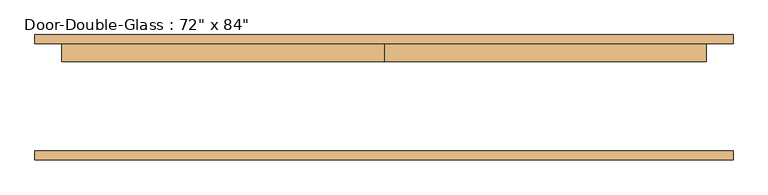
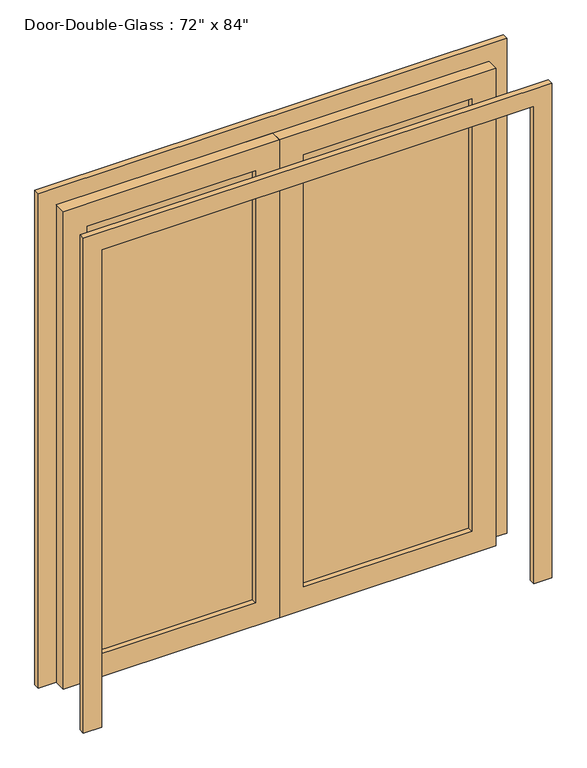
"""IFC4 building model written with IfcOpenShell, lengths in millimetres: door geometry."""

from ifc_helpers import new_model, si_unit, frame, origin, place, context, project, spatial, polyline, outline, extrude, source, transform, mapped, element, save


def door_6c86b5ab(model_context):
    return source(origin(), model_context, "Body", "SweptSolid", [
        extrude(outline(polyline([(2133.6, -914.4), (0.0, -914.4), (0.0, 0.0), (2133.6, 0.0), (2133.6, -914.4)]), holes=[polyline([(2032.0, -812.8), (2032.0, -101.6), (101.6, -101.6), (101.6, -812.8), (2032.0, -812.8)])]), frame((0.0, 103.98125, 0.0), z_axis=(0.0, 1.0, 0.0), x_axis=(0.0, 0.0, 1.0)), (0.0, 0.0, 1.0), 50.8),
        extrude(outline(polyline([(2133.6, 914.4), (2133.6, 0.0), (0.0, 0.0), (0.0, 914.4), (2133.6, 914.4)]), holes=[polyline([(2032.0, 812.8), (101.6, 812.8), (101.6, 101.6), (2032.0, 101.6), (2032.0, 812.8)])]), frame((0.0, 103.98125, 0.0), z_axis=(0.0, 1.0, 0.0), x_axis=(0.0, 0.0, 1.0)), (0.0, 0.0, 1.0), 50.8),
        extrude(outline(polyline([(101.6, 132.55625), (812.8, 132.55625), (812.8, 126.20625), (101.6, 126.20625), (101.6, 132.55625)])), frame((0.0, 0.0, 101.6), z_axis=(0.0, 0.0, 1.0), x_axis=(1.0, 0.0, 0.0)), (0.0, 0.0, 1.0), 1930.4),
        extrude(outline(polyline([(-812.8, 132.55625), (-101.6, 132.55625), (-101.6, 126.20625), (-812.8, 126.20625), (-812.8, 132.55625)])), frame((0.0, 0.0, 101.6), z_axis=(0.0, 0.0, 1.0), x_axis=(1.0, 0.0, 0.0)), (0.0, 0.0, 1.0), 1930.4),
        extrude(outline(polyline([(0.0, 990.6), (2209.8, 990.6), (2209.8, -990.6), (0.0, -990.6), (0.0, -914.4), (2133.6, -914.4), (2133.6, 914.4), (0.0, 914.4), (0.0, 990.6)])), frame((0.0, 154.78125, 0.0), z_axis=(0.0, 1.0, 0.0), x_axis=(0.0, 0.0, 1.0)), (0.0, 0.0, 1.0), 25.4),
        extrude(outline(polyline([(0.0, 990.6), (2209.8, 990.6), (2209.8, -990.6), (0.0, -990.6), (0.0, -914.4), (2133.6, -914.4), (2133.6, 914.4), (0.0, 914.4), (0.0, 990.6)])), frame((0.0, -175.41875, 0.0), z_axis=(0.0, 1.0, 0.0), x_axis=(0.0, 0.0, 1.0)), (0.0, 0.0, 1.0), 25.4),
    ])


if __name__ == "__main__":
    model = new_model("IFC4")
    model_context = context("Model", 3, world=origin())
    ifc_project = project(units=[si_unit("LENGTHUNIT", "METRE", prefix="MILLI")], contexts=[model_context])
    site = spatial("IfcSite", under=ifc_project)
    building = spatial("IfcBuilding", under=site)
    placement = place(None, origin())
    door_shape = door_6c86b5ab(model_context)
    element("IfcDoor", 1, ObjectType="Door-Double-Glass : 72\" x 84\"", at=placement, inside=building, context=model_context, shape_type="MappedRepresentation", body=[
        mapped(door_shape, transform((0.0, 0.0, 0.0), x_axis=(1.0, 0.0, 0.0), y_axis=(0.0, 1.0, 0.0), z_axis=(0.0, 0.0, 1.0))),
    ])
    save(model, "model.ifc")
